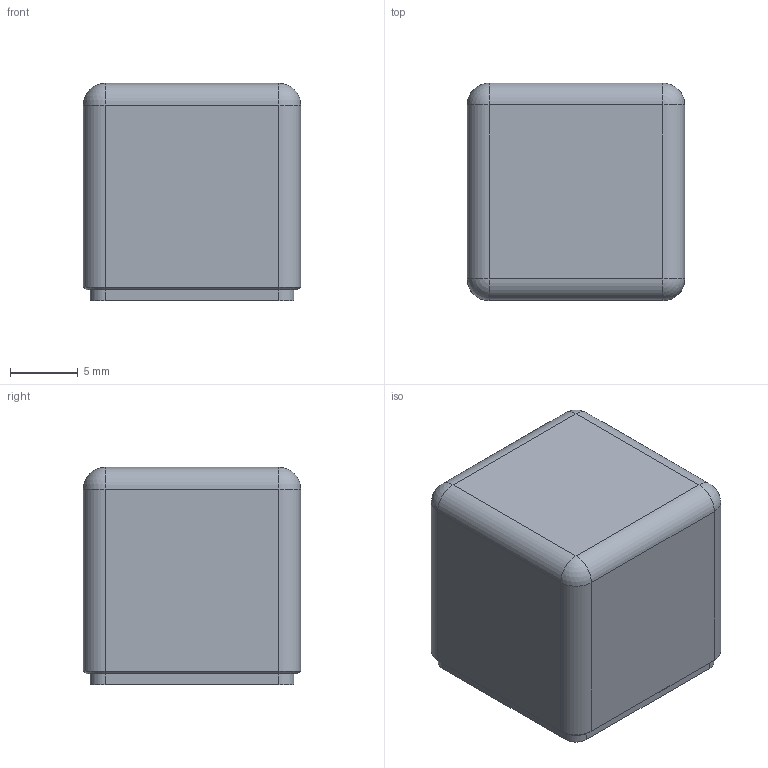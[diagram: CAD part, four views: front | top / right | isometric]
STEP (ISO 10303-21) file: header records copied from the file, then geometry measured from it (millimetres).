
FILE_DESCRIPTION(('Open CASCADE Model'),'2;1');
FILE_NAME('PN-CUBE-knob-16','2026-10-19T21:24:16',('Author'),( 'Open CASCADE'),'Open CASCADE STEP processor 8.0','build123d', 'Unknown');
FILE_SCHEMA(('AUTOMOTIVE_DESIGN { 1 0 10303 214 1 1 1 1 }'));
Length unit declared in the file: millimetre
Products named in the file (2): PN-CUBE-knob-16; brass_PN-CUBE16__k
Assembly tree (1 placements, depth 2):
  PN-CUBE-knob-16
    brass_PN-CUBE16__k
Bounding box: 16 x 16 x 16 mm (x, y, z)
Volume: 3893.4 mm3; surface area: 1557.6 mm2
Topology: 1 solids, 1 shells, 39 faces, 86 edges, 48 vertices
Faces by surface type: plane 17, cylinder 14, cone 4, sphere 4
Full cylindrical faces by diameter (mm): 3.3 x1, 5.1 x1
Entity records: 2100 total; most frequent: CARTESIAN_POINT 411, DIRECTION 314, ORIENTED_EDGE 164, PCURVE 164, DEFINITIONAL_REPRESENTATION 164, LINE 158, VECTOR 158, EDGE_CURVE 82
